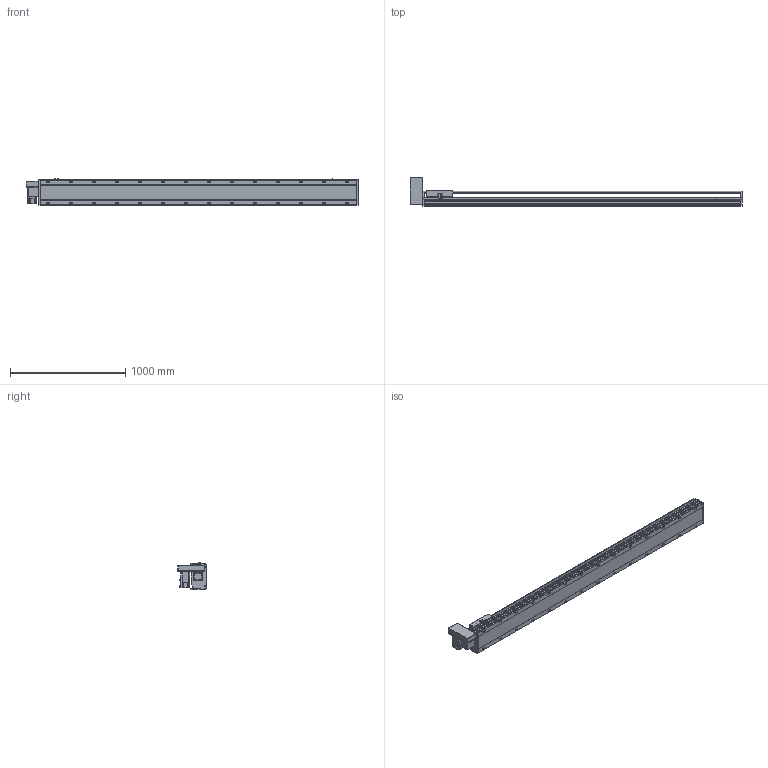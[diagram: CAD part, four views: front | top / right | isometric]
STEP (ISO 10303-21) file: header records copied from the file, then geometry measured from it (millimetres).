
FILE_DESCRIPTION(/* description */ ('STEP AP214'),/* implementation_level */ '2;1');
FILE_NAME(/* name */ 'PBS220-P40-S2400-RU-T75-C1-N(0)',/* time_stamp */ '2022-06-13T02:58:38+02:00',/* author */ ('License CC BY-ND 4.0'),/* organization */ ('CADENAS'),/* preprocessor_version */ 'ST-DEVELOPER v18.102',/* originating_system */ 'PARTsolutions',/* authorisation */ ' ');
FILE_SCHEMA (('AUTOMOTIVE_DESIGN {1 0 10303 214 3 1 1}'));
Length unit declared in the file: millimetre
Products named in the file (7): PBS220-P40-S2400-RU-T75-C1-N(0); PBS220_sensor; PBS220_plant; PBS220_sliser; T75-p1; PBS220T-RU_motors; PBS220-S2400()_body
Assembly tree (8 placements, depth 2):
  PBS220-P40-S2400-RU-T75-C1-N(0)
    PBS220_sensor  x3
    PBS220_plant
    PBS220_sliser
    T75-p1
    PBS220T-RU_motors
    PBS220-S2400()_body
Bounding box: 2884 x 247 x 238.5 mm (x, y, z)
Volume: 40315955.4 mm3; surface area: 3703465 mm2
Topology: 8 solids, 8 shells, 986 faces, 2564 edges, 1666 vertices
Faces by surface type: plane 622, cylinder 312, cone 52
Full cylindrical faces by diameter (mm): 2.013 x4, 4.5 x14, 4.917 x4, 6 x7, 6.647 x8, 8 x10, 8.376 x28, 8.5 x28, 10 x6, 14 x28, 38 x2, 40 x1, 70 x1
Entity records: 27501 total; most frequent: CARTESIAN_POINT 4888, DIRECTION 4779, ORIENTED_EDGE 4322, EDGE_CURVE 2161, AXIS2_PLACEMENT_3D 1711, VERTEX_POINT 1512, LINE 1357, VECTOR 1357
